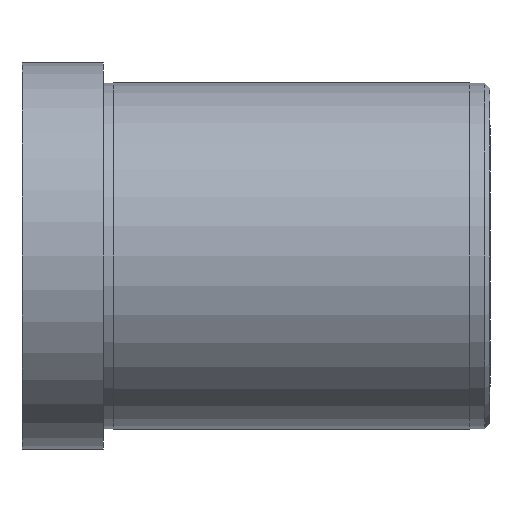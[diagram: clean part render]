
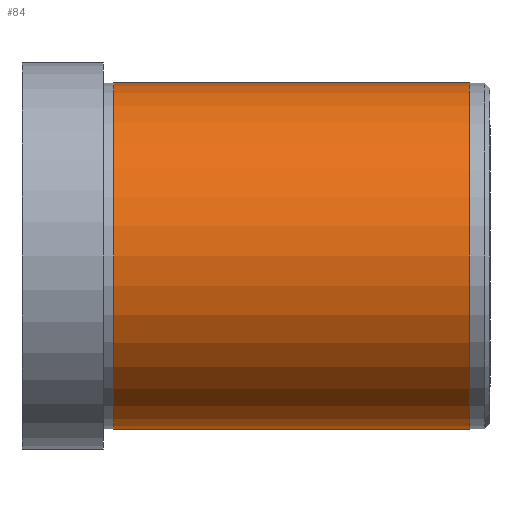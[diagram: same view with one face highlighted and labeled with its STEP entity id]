
A CAD part, front view. The second image highlights one B-rep face of the part: STEP entity #84.
In plain terms, the highlighted face is a revolution surface.
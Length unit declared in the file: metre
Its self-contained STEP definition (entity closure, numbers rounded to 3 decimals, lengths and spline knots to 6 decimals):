
#84 = ADVANCED_FACE( '', ( #116 ), #117, .F. );
#116 = FACE_OUTER_BOUND( '', #174, .T. );
#117 = SURFACE_OF_REVOLUTION( '', #175, #176 );
#174 = EDGE_LOOP( '', ( #357, #358, #359, #360 ) );
#175 = B_SPLINE_CURVE_WITH_KNOTS( '', 1, ( #361, #362 ), .UNSPECIFIED., .F., .F., ( 2, 2 ), ( -10000., 10000. ), .UNSPECIFIED. );
#176 = AXIS1_PLACEMENT( '', #363, #364 );
#357 = ORIENTED_EDGE( '', *, *, #460, .F. );
#358 = ORIENTED_EDGE( '', *, *, #458, .F. );
#359 = ORIENTED_EDGE( '', *, *, #444, .F. );
#360 = ORIENTED_EDGE( '', *, *, #457, .F. );
#361 = CARTESIAN_POINT( '', ( -10000.011, 0., -0.01701 ) );
#362 = CARTESIAN_POINT( '', ( 9999.989, 0., -0.01701 ) );
#363 = CARTESIAN_POINT( '', ( 0.042419, 0., 0. ) );
#364 = DIRECTION( '', ( -1., 0., 0. ) );
#444 = EDGE_CURVE( '', #488, #487, #490, .T. );
#457 = EDGE_CURVE( '', #511, #488, #512, .T. );
#458 = EDGE_CURVE( '', #487, #513, #514, .F. );
#460 = EDGE_CURVE( '', #513, #511, #516, .F. );
#487 = VERTEX_POINT( '', #555 );
#488 = VERTEX_POINT( '', #556 );
#490 = CIRCLE( '', #558, 0.01701 );
#511 = VERTEX_POINT( '', #583 );
#512 = LINE( '', #584, #585 );
#513 = VERTEX_POINT( '', #586 );
#514 = LINE( '', #587, #588 );
#516 = CIRCLE( '', #590, 0.01701 );
#555 = CARTESIAN_POINT( '', ( 0.024, 0., -0.01701 ) );
#556 = CARTESIAN_POINT( '', ( 0.024, 0., 0.01701 ) );
#558 = AXIS2_PLACEMENT_3D( '', #680, #681, #682 );
#583 = CARTESIAN_POINT( '', ( -0.011, 0., 0.01701 ) );
#584 = CARTESIAN_POINT( '', ( -0.011, 0., 0.01701 ) );
#585 = VECTOR( '', #711, 1. );
#586 = CARTESIAN_POINT( '', ( -0.011, 0., -0.01701 ) );
#587 = CARTESIAN_POINT( '', ( -0.011, 0., -0.01701 ) );
#588 = VECTOR( '', #712, 1. );
#590 = AXIS2_PLACEMENT_3D( '', #716, #717, #718 );
#680 = CARTESIAN_POINT( '', ( 0.024, 0., 0. ) );
#681 = DIRECTION( '', ( 1., 0., 0. ) );
#682 = DIRECTION( '', ( 0., 0., -1. ) );
#711 = DIRECTION( '', ( 1., 0., 0. ) );
#712 = DIRECTION( '', ( 1., 0., 0. ) );
#716 = CARTESIAN_POINT( '', ( -0.011, 0., 0. ) );
#717 = DIRECTION( '', ( 1., 0., 0. ) );
#718 = DIRECTION( '', ( 0., 0., -1. ) );
